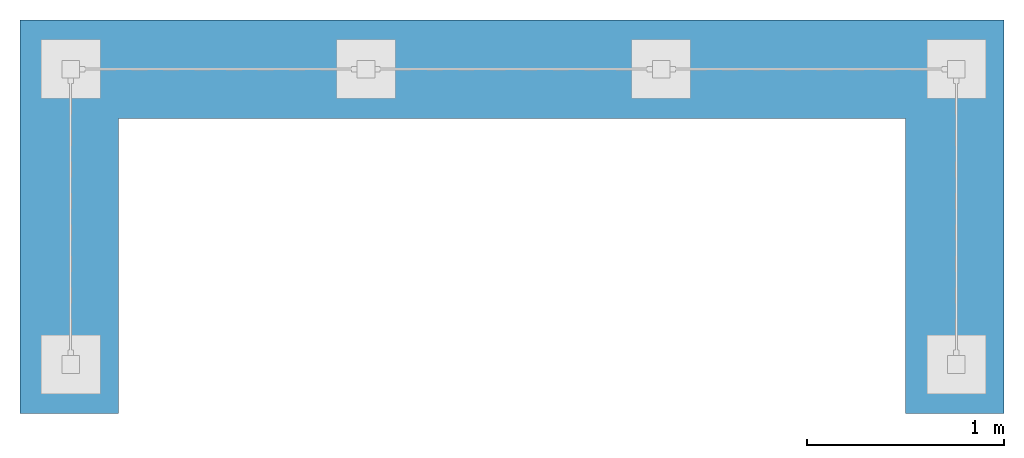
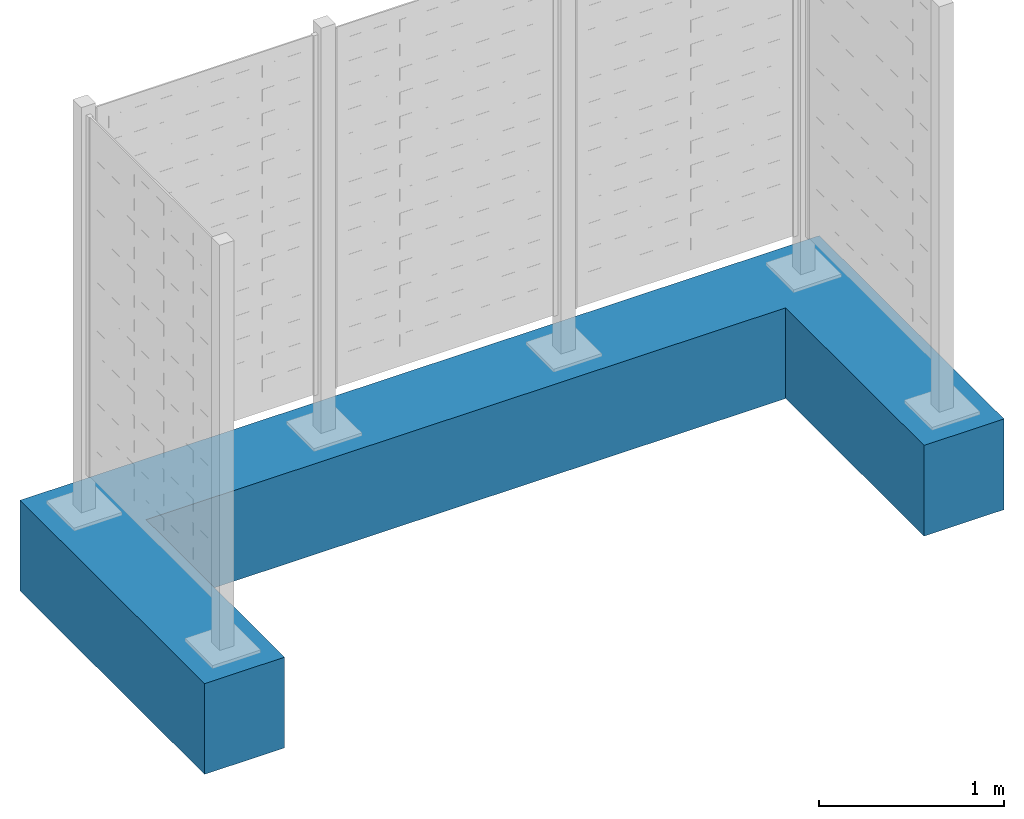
# One storey, incomplete: 1 slab.
"""IFC4 building model written with IfcOpenShell, lengths in metres."""

from ifc_helpers import new_model, entity, si_unit, converted_unit, direction, frame, origin, place, context, subcontext, project, spatial, polyline, outline, extrude, material, type_object, element, save


model = new_model("IFC4")

# Units and contexts
model_context = context("Model", 3, precision=1e-05, world=origin(), true_north=direction((6.123031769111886e-17, 1.0)))
body_context = subcontext(model_context, "Body", "Model", "MODEL_VIEW")
ifc_project = project(units=[si_unit("LENGTHUNIT", "METRE"), converted_unit("PLANEANGLEUNIT", "DEGREE", entity("IfcPlaneAngleMeasure", 0.017453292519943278), si_unit("PLANEANGLEUNIT", "RADIAN"), dimensions=[0, 0, 0, 0, 0, 0, 0]), si_unit("AREAUNIT", "SQUARE_METRE")], contexts=[model_context])

# Site, building, storey
site_placement = place(None, origin())
site = spatial("IfcSite", under=ifc_project, at=site_placement, Name="Default", CompositionType="ELEMENT")
building_placement = place(site_placement, origin())
building = spatial("IfcBuilding", under=site, at=building_placement, CompositionType="ELEMENT")
storey_placement = place(building_placement, origin())
storey = spatial("IfcBuildingStorey", under=building, at=storey_placement, Name="DB_Bezugshoehe_max_Bahnsteigkante", CompositionType="ELEMENT", Elevation=0.0)

# Slab
ifc_material = material(Name="DB_Ortbeton", Category="DB_Beton")
slab_type = type_object("IfcSlabType", Name="DB_Windschutz_3-feldrig_U_Fundament:DB_Windschutz_3-feldrig_U_Fundament", PredefinedType="BASESLAB", material=ifc_material)
slab_placement = place(storey_placement, origin())
element("IfcSlab", 1, at=slab_placement, inside=storey, type_object=slab_type, Name="DB_Windschutz_3-feldrig_U_Fundament:DB_Windschutz_3-feldrig_U_Fundament", ObjectType="DB_Windschutz_3-feldrig_U_Fundament:DB_Windschutz_3-feldrig_U_Fundament", PredefinedType="BASESLAB", context=body_context, shape_type="SweptSolid", body=[
    extrude(outline(polyline([(-2.0, -0.9000000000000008), (2.0, -0.9000000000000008), (2.4999999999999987, -0.9000000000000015), (2.5000000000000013, 1.0999999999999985), (2.0, 1.0999999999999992), (2.0, -0.40000000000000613), (-2.0, -0.40000000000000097), (-2.0, 1.1000000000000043), (-2.4999999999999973, 1.100000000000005), (-2.5, -0.8999999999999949), (-2.0, -0.9000000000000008)])), frame((2.242205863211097, 0.8499999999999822, 0.0), z_axis=(0.0, 0.0, 1.0), x_axis=(-1.0, 0.0, 0.0)), (0.0, 0.0, 1.0), 0.5999999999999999),
])

save(model, "model.ifc")
